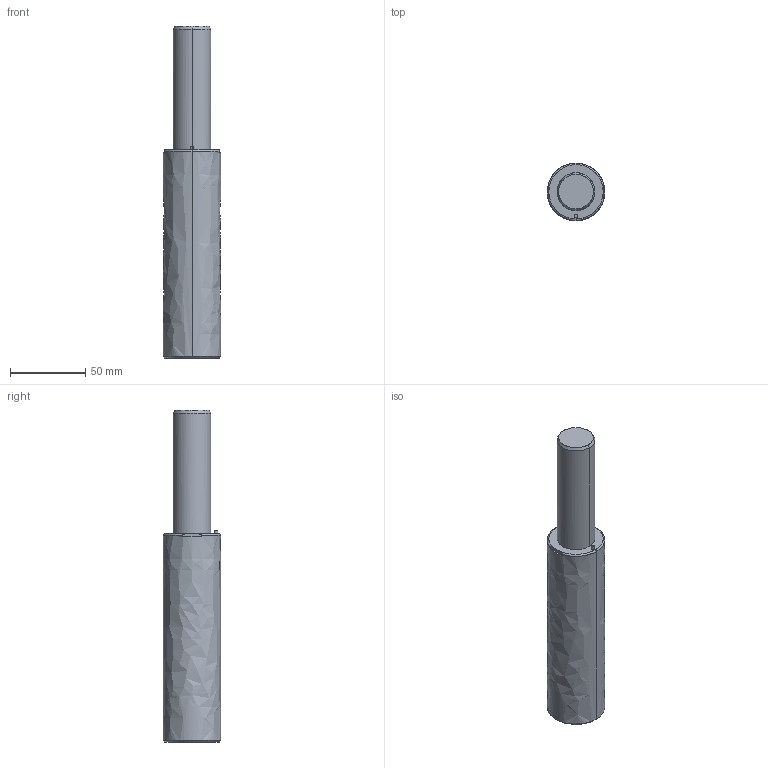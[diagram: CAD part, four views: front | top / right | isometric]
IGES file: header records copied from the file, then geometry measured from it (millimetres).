
Global section: file name: E:\UnigraphicsGraphicData\MISUMI_PRESS-PARTS\IGES\3d_gsx38-80_03986_r00.igs; native system: NX V5.0; preprocessor: UGS NX IGES V5.0; author: MISUMI; date: 20110105.160826; units: millimetre
Bounding box: 38 x 38 x 220 mm (x, y, z)
Surface area: 26304 mm2 (no closed solid volume)
Topology: 0 solids, 0 shells, 59 faces, 414 edges, 406 vertices
Faces by surface type: bspline 59
